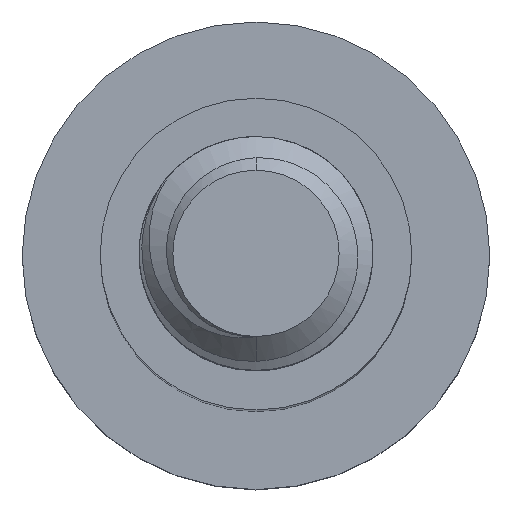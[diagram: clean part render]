
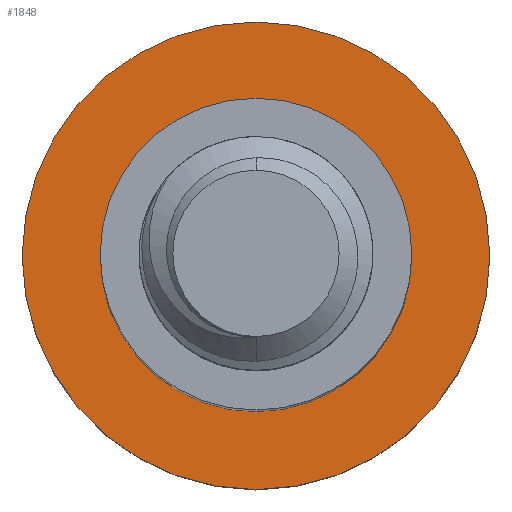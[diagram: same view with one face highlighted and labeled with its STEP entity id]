
A CAD part, top view. The second image highlights one B-rep face of the part: STEP entity #1848.
In plain terms, the highlighted planar face has unit normal (0, 0, 1).
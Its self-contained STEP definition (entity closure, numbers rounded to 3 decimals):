
#206 = CARTESIAN_POINT ( 'NONE',  ( 0., 0., -25. ) ) ;
#367 = EDGE_LOOP ( 'NONE', ( #2209, #1537 ) ) ;
#409 = VERTEX_POINT ( 'NONE', #3495 ) ;
#489 = DIRECTION ( 'NONE',  ( 0., 0., -1. ) ) ;
#526 = EDGE_CURVE ( 'NONE', #1470, #3440, #2171, .T. ) ;
#807 = AXIS2_PLACEMENT_3D ( 'NONE', #3750, #2184, #2421 ) ;
#941 = DIRECTION ( 'NONE',  ( -1., 0., 0. ) ) ;
#1123 = FACE_OUTER_BOUND ( 'NONE', #367, .T. ) ;
#1293 = CIRCLE ( 'NONE', #2838, 6. ) ;
#1470 = VERTEX_POINT ( 'NONE', #2678 ) ;
#1537 = ORIENTED_EDGE ( 'NONE', *, *, #2662, .F. ) ;
#1781 = DIRECTION ( 'NONE',  ( -1., 0., 0. ) ) ;
#1831 = AXIS2_PLACEMENT_3D ( 'NONE', #206, #3468, #1781 ) ;
#1832 = DIRECTION ( 'NONE',  ( -1., 0., 0. ) ) ;
#1848 = ADVANCED_FACE ( 'NONE', ( #3181, #1123 ), #3425, .F. ) ;
#2066 = CIRCLE ( 'NONE', #2619, 4. ) ;
#2171 = CIRCLE ( 'NONE', #3411, 6. ) ;
#2184 = DIRECTION ( 'NONE',  ( 0., 0., -1. ) ) ;
#2209 = ORIENTED_EDGE ( 'NONE', *, *, #526, .F. ) ;
#2272 = CIRCLE ( 'NONE', #807, 4. ) ;
#2421 = DIRECTION ( 'NONE',  ( -1., 0., 0. ) ) ;
#2436 = CARTESIAN_POINT ( 'NONE',  ( 0., 0., -25. ) ) ;
#2491 = EDGE_LOOP ( 'NONE', ( #3248, #3888 ) ) ;
#2581 = CARTESIAN_POINT ( 'NONE',  ( 0., 0., -25. ) ) ;
#2619 = AXIS2_PLACEMENT_3D ( 'NONE', #2581, #3948, #941 ) ;
#2662 = EDGE_CURVE ( 'NONE', #3440, #1470, #1293, .T. ) ;
#2678 = CARTESIAN_POINT ( 'NONE',  ( 6., 0., -25. ) ) ;
#2811 = DIRECTION ( 'NONE',  ( 0., 0., -1. ) ) ;
#2838 = AXIS2_PLACEMENT_3D ( 'NONE', #2436, #489, #1832 ) ;
#2855 = CARTESIAN_POINT ( 'NONE',  ( 0., 0., -25. ) ) ;
#3181 = FACE_BOUND ( 'NONE', #2491, .T. ) ;
#3183 = DIRECTION ( 'NONE',  ( -1., 0., 0. ) ) ;
#3224 = EDGE_CURVE ( 'NONE', #3823, #409, #2066, .T. ) ;
#3248 = ORIENTED_EDGE ( 'NONE', *, *, #3224, .T. ) ;
#3351 = CARTESIAN_POINT ( 'NONE',  ( -6., 0., -25. ) ) ;
#3411 = AXIS2_PLACEMENT_3D ( 'NONE', #2855, #2811, #3183 ) ;
#3425 = PLANE ( 'NONE',  #1831 ) ;
#3440 = VERTEX_POINT ( 'NONE', #3351 ) ;
#3468 = DIRECTION ( 'NONE',  ( 0., 0., -1. ) ) ;
#3495 = CARTESIAN_POINT ( 'NONE',  ( 4., 0., -25. ) ) ;
#3732 = EDGE_CURVE ( 'NONE', #409, #3823, #2272, .T. ) ;
#3750 = CARTESIAN_POINT ( 'NONE',  ( 0., 0., -25. ) ) ;
#3823 = VERTEX_POINT ( 'NONE', #3865 ) ;
#3865 = CARTESIAN_POINT ( 'NONE',  ( -4., 0., -25. ) ) ;
#3888 = ORIENTED_EDGE ( 'NONE', *, *, #3732, .T. ) ;
#3948 = DIRECTION ( 'NONE',  ( 0., 0., -1. ) ) ;
